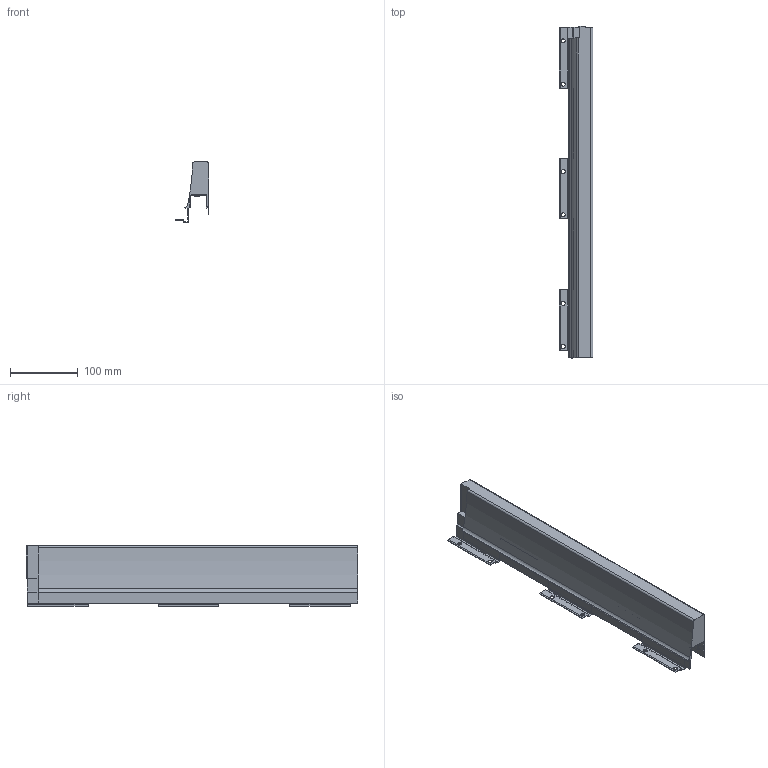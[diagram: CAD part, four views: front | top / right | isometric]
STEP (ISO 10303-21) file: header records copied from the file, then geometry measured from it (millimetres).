
FILE_DESCRIPTION (( 'STEP AP214' ), '1' );
FILE_NAME ('_XP Agantis Dekorseite H95 NL500 RE.step', '2010-07-08T06:05:27', ( 'grass' ), ( '' ), 'SwSTEP 2.0', 'SolidWorks 2010', '' );
FILE_SCHEMA (( 'AUTOMOTIVE_DESIGN' ));
Length unit declared in the file: millimetre
Products named in the file (1): _XP Agantis Dekorseite H95 NL500 RE
Bounding box: 50.01 x 491.5 x 89.5 mm (x, y, z)
Volume: 695497.5 mm3; surface area: 164353.3 mm2
Topology: 1 solids, 1 shells, 130 faces, 382 edges, 249 vertices
Faces by surface type: plane 103, cylinder 27
Entity records: 4335 total; most frequent: ORIENTED_EDGE 764, CARTESIAN_POINT 762, DIRECTION 699, EDGE_CURVE 382, VECTOR 327, LINE 327, VERTEX_POINT 249, AXIS2_PLACEMENT_3D 186
